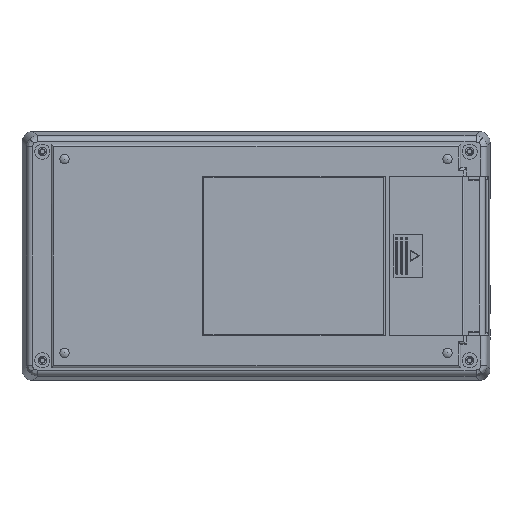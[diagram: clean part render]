
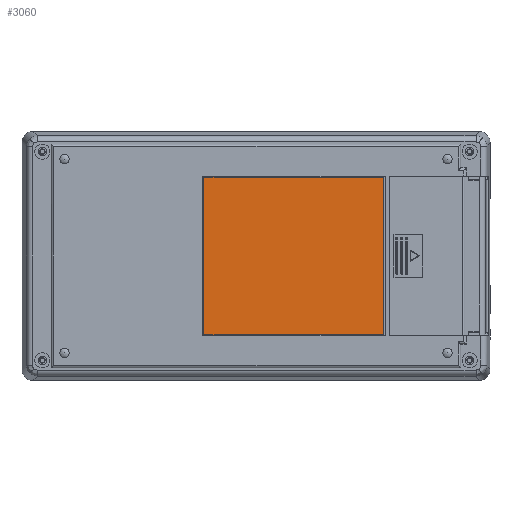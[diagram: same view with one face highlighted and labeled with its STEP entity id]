
A CAD part, front view. The second image highlights one B-rep face of the part: STEP entity #3060.
In plain terms, the highlighted planar face has unit normal (0, -1, 0).
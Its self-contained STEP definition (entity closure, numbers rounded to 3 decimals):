
#525 = CARTESIAN_POINT ( 'NONE',  ( -21.2, -14.3, 32. ) ) ;
#967 = VECTOR ( 'NONE', #12930, 1000. ) ;
#1513 = VERTEX_POINT ( 'NONE', #20759 ) ;
#2511 = LINE ( 'NONE', #2714, #6365 ) ;
#2714 = CARTESIAN_POINT ( 'NONE',  ( 52.1, -14.3, 32. ) ) ;
#3060 = ADVANCED_FACE ( 'NONE', ( #13873 ), #17676, .T. ) ;
#3181 = EDGE_CURVE ( 'NONE', #22315, #11780, #2511, .T. ) ;
#3929 = ORIENTED_EDGE ( 'NONE', *, *, #18747, .T. ) ;
#6206 = DIRECTION ( 'NONE',  ( 0., -1., 0. ) ) ;
#6365 = VECTOR ( 'NONE', #18008, 1000. ) ;
#6501 = CARTESIAN_POINT ( 'NONE',  ( -21.2, -14.3, -32. ) ) ;
#8035 = CARTESIAN_POINT ( 'NONE',  ( -95.3, -14.3, -50.7 ) ) ;
#8439 = ORIENTED_EDGE ( 'NONE', *, *, #24499, .T. ) ;
#10329 = CARTESIAN_POINT ( 'NONE',  ( 52.1, -14.3, -32. ) ) ;
#10879 = AXIS2_PLACEMENT_3D ( 'NONE', #8035, #6206, #19623 ) ;
#11780 = VERTEX_POINT ( 'NONE', #525 ) ;
#12251 = DIRECTION ( 'NONE',  ( 1., 0., 0. ) ) ;
#12930 = DIRECTION ( 'NONE',  ( 0., 0., -1. ) ) ;
#12941 = EDGE_LOOP ( 'NONE', ( #8439, #19621, #20603, #3929 ) ) ;
#13873 = FACE_OUTER_BOUND ( 'NONE', #12941, .T. ) ;
#14647 = CARTESIAN_POINT ( 'NONE',  ( 52.1, -14.3, 32. ) ) ;
#14676 = VECTOR ( 'NONE', #16728, 1000. ) ;
#14694 = VECTOR ( 'NONE', #12251, 1000. ) ;
#15035 = LINE ( 'NONE', #24430, #967 ) ;
#15960 = VERTEX_POINT ( 'NONE', #6501 ) ;
#16728 = DIRECTION ( 'NONE',  ( 0., 0., 1. ) ) ;
#17267 = CARTESIAN_POINT ( 'NONE',  ( 52.1, -14.3, 32. ) ) ;
#17676 = PLANE ( 'NONE',  #10879 ) ;
#18008 = DIRECTION ( 'NONE',  ( -1., 0., 0. ) ) ;
#18747 = EDGE_CURVE ( 'NONE', #11780, #15960, #15035, .T. ) ;
#19621 = ORIENTED_EDGE ( 'NONE', *, *, #20002, .T. ) ;
#19623 = DIRECTION ( 'NONE',  ( 0., 0., -1. ) ) ;
#19779 = LINE ( 'NONE', #14647, #14676 ) ;
#20002 = EDGE_CURVE ( 'NONE', #1513, #22315, #19779, .T. ) ;
#20603 = ORIENTED_EDGE ( 'NONE', *, *, #3181, .T. ) ;
#20759 = CARTESIAN_POINT ( 'NONE',  ( 52.1, -14.3, -32. ) ) ;
#22315 = VERTEX_POINT ( 'NONE', #17267 ) ;
#23702 = LINE ( 'NONE', #10329, #14694 ) ;
#24430 = CARTESIAN_POINT ( 'NONE',  ( -21.2, -14.3, 32. ) ) ;
#24499 = EDGE_CURVE ( 'NONE', #15960, #1513, #23702, .T. ) ;
